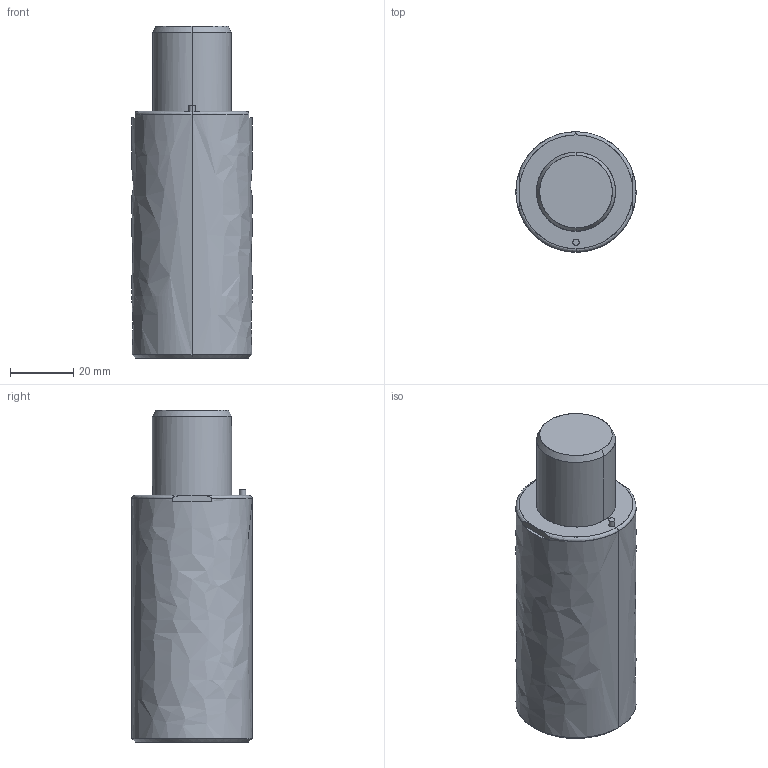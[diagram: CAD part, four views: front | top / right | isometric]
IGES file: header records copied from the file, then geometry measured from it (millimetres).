
Global section: file name: E:\UnigraphicsGraphicData\MISUMI_PRESS-PARTS\IGES\3d_gsx38-25_03989_r00.igs; native system: NX V5.0; preprocessor: UGS NX IGES V5.0; author: MISUMI; date: 20110105.160824; units: millimetre
Bounding box: 38 x 38 x 105 mm (x, y, z)
Surface area: 14821.5 mm2 (no closed solid volume)
Topology: 0 solids, 0 shells, 59 faces, 414 edges, 406 vertices
Faces by surface type: bspline 59
